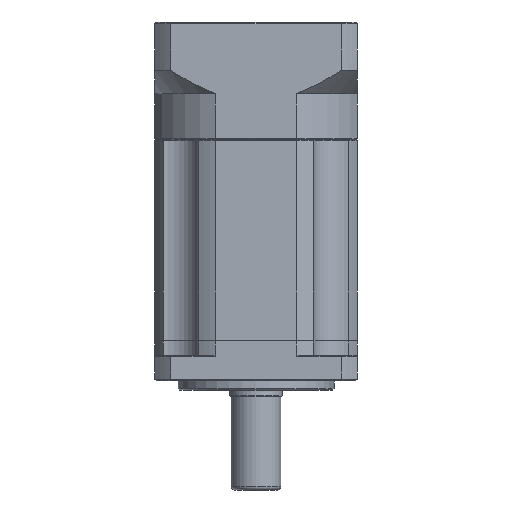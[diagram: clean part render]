
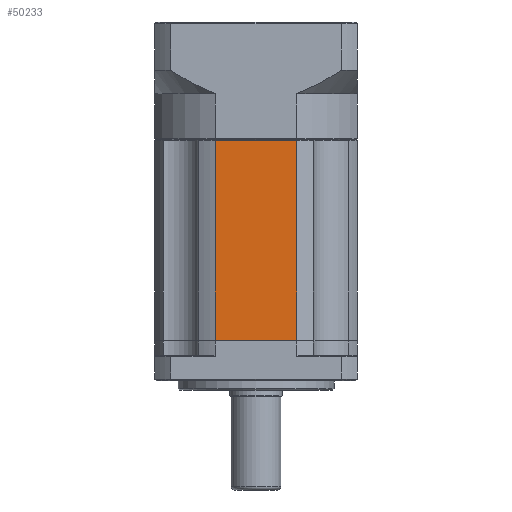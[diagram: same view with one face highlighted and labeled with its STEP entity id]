
A CAD part, front view. The second image highlights one B-rep face of the part: STEP entity #50233.
In plain terms, the highlighted planar face has unit normal (0, -1, 0).
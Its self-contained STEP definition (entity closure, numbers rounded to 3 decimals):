
#2879 = DIRECTION ( 'NONE',  ( 0., 0., -1. ) ) ;
#4275 = DIRECTION ( 'NONE',  ( -1., 0., 0. ) ) ;
#5341 = CARTESIAN_POINT ( 'NONE',  ( 17.174, -27.975, -18.197 ) ) ;
#7092 = ORIENTED_EDGE ( 'NONE', *, *, #31118, .F. ) ;
#7125 = CARTESIAN_POINT ( 'NONE',  ( 43.155, -27.975, 46.103 ) ) ;
#8838 = ORIENTED_EDGE ( 'NONE', *, *, #76922, .T. ) ;
#11920 = AXIS2_PLACEMENT_3D ( 'NONE', #67966, #18488, #76304 ) ;
#13011 = ORIENTED_EDGE ( 'NONE', *, *, #75000, .T. ) ;
#15607 = ORIENTED_EDGE ( 'NONE', *, *, #69279, .T. ) ;
#18488 = DIRECTION ( 'NONE',  ( 0., 1., 0. ) ) ;
#19468 = LINE ( 'NONE', #49557, #104316 ) ;
#21053 = FACE_OUTER_BOUND ( 'NONE', #60827, .T. ) ;
#31118 = EDGE_CURVE ( 'NONE', #73943, #74033, #68011, .T. ) ;
#37208 = CARTESIAN_POINT ( 'NONE',  ( 17.174, -27.975, 45.903 ) ) ;
#37932 = DIRECTION ( 'NONE',  ( 0., 0., -1. ) ) ;
#38335 = LINE ( 'NONE', #37208, #98781 ) ;
#40688 = CARTESIAN_POINT ( 'NONE',  ( 43.155, -27.975, -18.197 ) ) ;
#49557 = CARTESIAN_POINT ( 'NONE',  ( 43.155, -27.975, -18.197 ) ) ;
#50233 = ADVANCED_FACE ( 'NONE', ( #21053 ), #92076, .F. ) ;
#57450 = VECTOR ( 'NONE', #37932, 1000. ) ;
#58106 = DIRECTION ( 'NONE',  ( 1., 0., 0. ) ) ;
#60043 = LINE ( 'NONE', #79075, #57450 ) ;
#60827 = EDGE_LOOP ( 'NONE', ( #7092, #8838, #13011, #15607 ) ) ;
#62401 = VERTEX_POINT ( 'NONE', #5341 ) ;
#64482 = CARTESIAN_POINT ( 'NONE',  ( 43.155, -27.975, 45.903 ) ) ;
#67966 = CARTESIAN_POINT ( 'NONE',  ( 43.155, -27.975, 46.103 ) ) ;
#68011 = LINE ( 'NONE', #7125, #89881 ) ;
#68086 = CARTESIAN_POINT ( 'NONE',  ( 17.174, -27.975, 45.903 ) ) ;
#68285 = VERTEX_POINT ( 'NONE', #68086 ) ;
#69279 = EDGE_CURVE ( 'NONE', #62401, #74033, #19468, .T. ) ;
#73943 = VERTEX_POINT ( 'NONE', #64482 ) ;
#74033 = VERTEX_POINT ( 'NONE', #40688 ) ;
#75000 = EDGE_CURVE ( 'NONE', #68285, #62401, #60043, .T. ) ;
#76304 = DIRECTION ( 'NONE',  ( 0., 0., 1. ) ) ;
#76922 = EDGE_CURVE ( 'NONE', #73943, #68285, #38335, .T. ) ;
#79075 = CARTESIAN_POINT ( 'NONE',  ( 17.174, -27.975, 46.103 ) ) ;
#89881 = VECTOR ( 'NONE', #2879, 1000. ) ;
#92076 = PLANE ( 'NONE',  #11920 ) ;
#98781 = VECTOR ( 'NONE', #4275, 1000. ) ;
#104316 = VECTOR ( 'NONE', #58106, 1000. ) ;
